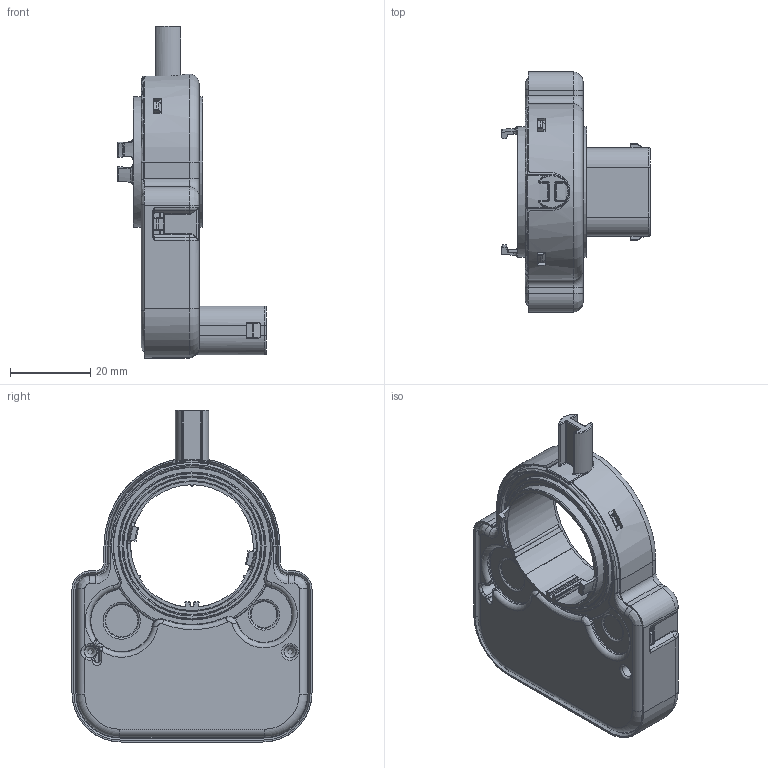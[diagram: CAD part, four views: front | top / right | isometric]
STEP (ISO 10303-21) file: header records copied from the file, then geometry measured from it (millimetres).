
FILE_DESCRIPTION(/* description */ (''),/* implementation_level */ '2;1');
FILE_NAME(/* name */ 'F02UA02894-01.001-STEERING ANGLE SENSOR.stp',/* time_stamp */ '2019-08-15T15:42:16+02:00',/* author */ (''),/* organization */ (''),/* preprocessor_version */ 'ST-DEVELOPER v16',/* originating_system */ 'SIEMENS PLM Software NX 11.0',/* authorisation */ '');
FILE_SCHEMA (('AUTOMOTIVE_DESIGN { 1 0 10303 214 3 1 1 1 }'));
Length unit declared in the file: millimetre
Products named in the file (1): deg242982EF4a5nz
Bounding box: 37.24 x 60 x 83 mm (x, y, z)
Volume: 32950.6 mm3; surface area: 23682.5 mm2
Topology: 1 solids, 1 shells, 1021 faces, 2677 edges, 1626 vertices
Faces by surface type: plane 366, cylinder 306, bspline 139, torus 123, cone 36, extrusion 29, sphere 22
Full cylindrical faces by diameter (mm): 1.2 x2, 2.6 x1, 2.8 x2, 3 x1, 3.2 x2, 32.65 x2, 34.6 x1, 36.1 x1, 36.2 x1, 36.6 x1, 37.9 x1
Entity records: 43671 total; most frequent: CARTESIAN_POINT 12712, ORIENTED_EDGE 5148, DIRECTION 4723, EDGE_CURVE 2574, AXIS2_PLACEMENT_3D 1725, VERTEX_POINT 1606, VECTOR 1273, LINE 1244
